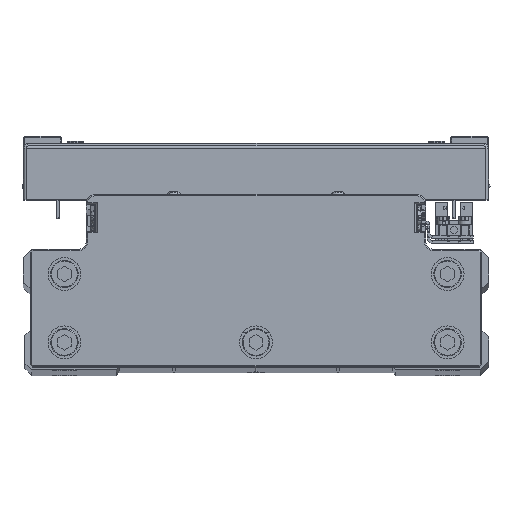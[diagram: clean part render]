
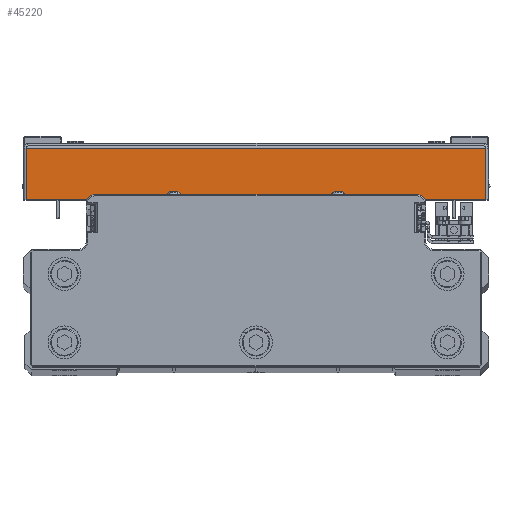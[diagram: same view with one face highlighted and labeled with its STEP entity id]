
A CAD part, top view. The second image highlights one B-rep face of the part: STEP entity #45220.
In plain terms, the highlighted planar face has unit normal (0, 0, 1) as drawn and (1, 0, 0) by its records, which use the part's own axes.
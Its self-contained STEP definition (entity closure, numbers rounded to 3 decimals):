
#410 = CARTESIAN_POINT ( 'NONE',  ( 110., 1., -83.929 ) ) ;
#2483 = CARTESIAN_POINT ( 'NONE',  ( 110., 19.5, 83.929 ) ) ;
#3468 = VERTEX_POINT ( 'NONE', #410 ) ;
#4393 = DIRECTION ( 'NONE',  ( 0., 0., 1. ) ) ;
#5624 = CARTESIAN_POINT ( 'NONE',  ( 110., 19.5, -83.929 ) ) ;
#6108 = VECTOR ( 'NONE', #38688, 1000. ) ;
#8270 = ORIENTED_EDGE ( 'NONE', *, *, #38790, .T. ) ;
#8304 = CARTESIAN_POINT ( 'NONE',  ( 110., 0., 0. ) ) ;
#9696 = VERTEX_POINT ( 'NONE', #2483 ) ;
#10590 = LINE ( 'NONE', #24637, #6108 ) ;
#11116 = LINE ( 'NONE', #25156, #44749 ) ;
#13901 = DIRECTION ( 'NONE',  ( 0., 0., 1. ) ) ;
#17399 = EDGE_LOOP ( 'NONE', ( #17588, #32615, #8270, #23081 ) ) ;
#17588 = ORIENTED_EDGE ( 'NONE', *, *, #22977, .F. ) ;
#20234 = EDGE_CURVE ( 'NONE', #3468, #39892, #10590, .T. ) ;
#21892 = LINE ( 'NONE', #35932, #24673 ) ;
#22062 = AXIS2_PLACEMENT_3D ( 'NONE', #8304, #22365, #36402 ) ;
#22365 = DIRECTION ( 'NONE',  ( -1., 0., 0. ) ) ;
#22977 = EDGE_CURVE ( 'NONE', #3468, #41258, #21892, .T. ) ;
#23081 = ORIENTED_EDGE ( 'NONE', *, *, #40123, .F. ) ;
#24637 = CARTESIAN_POINT ( 'NONE',  ( 110., 0., -83.929 ) ) ;
#24673 = VECTOR ( 'NONE', #4393, 1000. ) ;
#25156 = CARTESIAN_POINT ( 'NONE',  ( 110., 0., 83.929 ) ) ;
#25812 = FACE_OUTER_BOUND ( 'NONE', #17399, .T. ) ;
#31401 = LINE ( 'NONE', #45437, #42460 ) ;
#32615 = ORIENTED_EDGE ( 'NONE', *, *, #20234, .T. ) ;
#35932 = CARTESIAN_POINT ( 'NONE',  ( 110., 1., 85. ) ) ;
#36402 = DIRECTION ( 'NONE',  ( 0., -1., 0. ) ) ;
#38688 = DIRECTION ( 'NONE',  ( 0., 1., 0. ) ) ;
#38790 = EDGE_CURVE ( 'NONE', #39892, #9696, #31401, .T. ) ;
#39200 = DIRECTION ( 'NONE',  ( 0., 1., 0. ) ) ;
#39850 = PLANE ( 'NONE',  #22062 ) ;
#39892 = VERTEX_POINT ( 'NONE', #5624 ) ;
#40123 = EDGE_CURVE ( 'NONE', #41258, #9696, #11116, .T. ) ;
#41258 = VERTEX_POINT ( 'NONE', #44589 ) ;
#42460 = VECTOR ( 'NONE', #13901, 1000. ) ;
#44589 = CARTESIAN_POINT ( 'NONE',  ( 110., 1., 83.929 ) ) ;
#44749 = VECTOR ( 'NONE', #39200, 1000. ) ;
#45220 = ADVANCED_FACE ( 'NONE', ( #25812 ), #39850, .F. ) ;
#45437 = CARTESIAN_POINT ( 'NONE',  ( 110., 19.5, 0. ) ) ;
